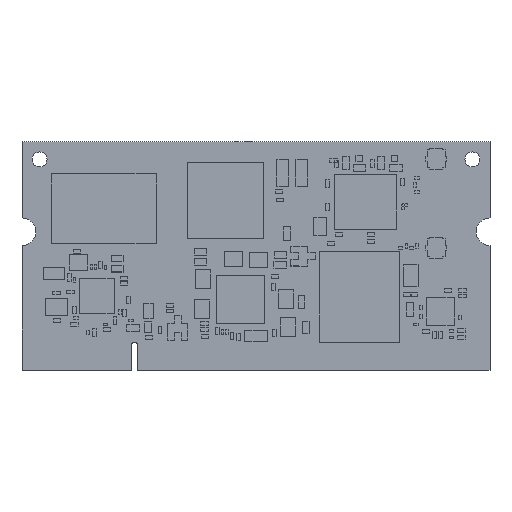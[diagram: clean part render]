
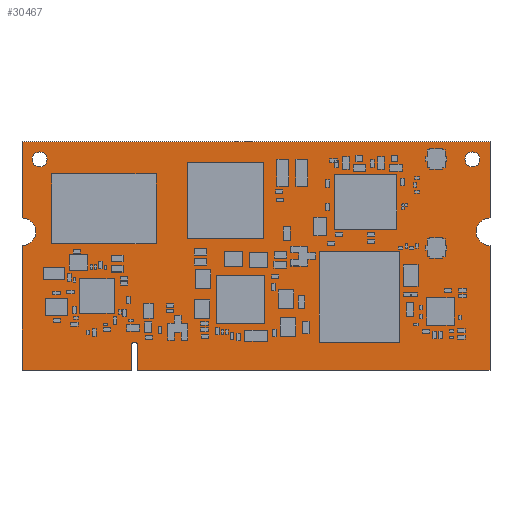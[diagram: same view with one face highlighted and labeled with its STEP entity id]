
A CAD part, top view. The second image highlights one B-rep face of the part: STEP entity #30467.
In plain terms, the highlighted planar face has unit normal (0, 0, 1).
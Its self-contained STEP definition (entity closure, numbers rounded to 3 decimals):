
#2455=FACE_BOUND('',#4444,.T.);
#2456=FACE_BOUND('',#4445,.T.);
#2457=FACE_BOUND('',#4446,.T.);
#2459=CIRCLE('',#36041,1.08);
#2461=CIRCLE('',#36044,1.08);
#2466=CIRCLE('',#36052,1.999);
#2467=CIRCLE('',#36057,0.499);
#2468=CIRCLE('',#36059,0.5);
#2469=CIRCLE('',#36064,1.999);
#2523=FACE_OUTER_BOUND('',#4443,.T.);
#4443=EDGE_LOOP('',(#20907,#20908,#20909,#20910,#20911,#20912,#20913,#20914,
#20915,#20916,#20917,#20918,#20919));
#4444=EDGE_LOOP('',(#20920,#20921,#20922,#20923));
#4445=EDGE_LOOP('',(#20924));
#4446=EDGE_LOOP('',(#20925));
#6315=LINE('',#47549,#10224);
#6319=LINE('',#47557,#10228);
#6322=LINE('',#47563,#10231);
#6325=LINE('',#47568,#10234);
#6411=LINE('',#47760,#10320);
#6414=LINE('',#47768,#10323);
#6416=LINE('',#47772,#10325);
#6418=LINE('',#47776,#10327);
#6422=LINE('',#47788,#10331);
#6424=LINE('',#47792,#10333);
#6426=LINE('',#47796,#10335);
#6429=LINE('',#47804,#10338);
#6431=LINE('',#47807,#10340);
#10224=VECTOR('',#38555,10.);
#10228=VECTOR('',#38561,10.);
#10231=VECTOR('',#38566,10.);
#10234=VECTOR('',#38571,10.);
#10320=VECTOR('',#38735,10.);
#10323=VECTOR('',#38744,10.);
#10325=VECTOR('',#38748,10.);
#10327=VECTOR('',#38752,10.);
#10331=VECTOR('',#38766,10.);
#10333=VECTOR('',#38770,10.);
#10335=VECTOR('',#38774,10.);
#10338=VECTOR('',#38783,10.);
#10340=VECTOR('',#38787,10.);
#14133=VERTEX_POINT('',#47547);
#14134=VERTEX_POINT('',#47548);
#14137=VERTEX_POINT('',#47556);
#14139=VERTEX_POINT('',#47562);
#14190=VERTEX_POINT('',#47720);
#14192=VERTEX_POINT('',#47726);
#14206=VERTEX_POINT('',#47757);
#14207=VERTEX_POINT('',#47759);
#14208=VERTEX_POINT('',#47763);
#14209=VERTEX_POINT('',#47767);
#14210=VERTEX_POINT('',#47771);
#14211=VERTEX_POINT('',#47775);
#14212=VERTEX_POINT('',#47779);
#14213=VERTEX_POINT('',#47783);
#14214=VERTEX_POINT('',#47787);
#14215=VERTEX_POINT('',#47791);
#14216=VERTEX_POINT('',#47795);
#14217=VERTEX_POINT('',#47799);
#14218=VERTEX_POINT('',#47803);
#16747=EDGE_CURVE('',#14133,#14134,#6315,.T.);
#16751=EDGE_CURVE('',#14134,#14137,#6319,.T.);
#16754=EDGE_CURVE('',#14137,#14139,#6322,.T.);
#16757=EDGE_CURVE('',#14139,#14133,#6325,.T.);
#16833=EDGE_CURVE('',#14190,#14190,#2459,.T.);
#16836=EDGE_CURVE('',#14192,#14192,#2461,.T.);
#16851=EDGE_CURVE('',#14207,#14206,#6411,.T.);
#16853=EDGE_CURVE('',#14208,#14207,#2466,.T.);
#16855=EDGE_CURVE('',#14209,#14208,#6414,.T.);
#16857=EDGE_CURVE('',#14210,#14209,#6416,.T.);
#16859=EDGE_CURVE('',#14211,#14210,#6418,.T.);
#16861=EDGE_CURVE('',#14212,#14211,#2467,.T.);
#16863=EDGE_CURVE('',#14213,#14212,#2468,.T.);
#16865=EDGE_CURVE('',#14214,#14213,#6422,.T.);
#16867=EDGE_CURVE('',#14215,#14214,#6424,.T.);
#16869=EDGE_CURVE('',#14216,#14215,#6426,.T.);
#16871=EDGE_CURVE('',#14217,#14216,#2469,.T.);
#16873=EDGE_CURVE('',#14218,#14217,#6429,.T.);
#16875=EDGE_CURVE('',#14206,#14218,#6431,.T.);
#20907=ORIENTED_EDGE('',*,*,#16875,.T.);
#20908=ORIENTED_EDGE('',*,*,#16873,.T.);
#20909=ORIENTED_EDGE('',*,*,#16871,.T.);
#20910=ORIENTED_EDGE('',*,*,#16869,.T.);
#20911=ORIENTED_EDGE('',*,*,#16867,.T.);
#20912=ORIENTED_EDGE('',*,*,#16865,.T.);
#20913=ORIENTED_EDGE('',*,*,#16863,.T.);
#20914=ORIENTED_EDGE('',*,*,#16861,.T.);
#20915=ORIENTED_EDGE('',*,*,#16859,.T.);
#20916=ORIENTED_EDGE('',*,*,#16857,.T.);
#20917=ORIENTED_EDGE('',*,*,#16855,.T.);
#20918=ORIENTED_EDGE('',*,*,#16853,.T.);
#20919=ORIENTED_EDGE('',*,*,#16851,.T.);
#20920=ORIENTED_EDGE('',*,*,#16747,.T.);
#20921=ORIENTED_EDGE('',*,*,#16751,.T.);
#20922=ORIENTED_EDGE('',*,*,#16754,.T.);
#20923=ORIENTED_EDGE('',*,*,#16757,.T.);
#20924=ORIENTED_EDGE('',*,*,#16833,.T.);
#20925=ORIENTED_EDGE('',*,*,#16836,.T.);
#28551=PLANE('',#36067);
#30467=ADVANCED_FACE('',(#2523,#2455,#2456,#2457),#28551,.T.);
#36041=AXIS2_PLACEMENT_3D('',#47722,#38704,#38705);
#36044=AXIS2_PLACEMENT_3D('',#47728,#38711,#38712);
#36052=AXIS2_PLACEMENT_3D('',#47764,#38739,#38740);
#36057=AXIS2_PLACEMENT_3D('',#47780,#38756,#38757);
#36059=AXIS2_PLACEMENT_3D('',#47784,#38761,#38762);
#36064=AXIS2_PLACEMENT_3D('',#47800,#38778,#38779);
#36067=AXIS2_PLACEMENT_3D('',#47808,#38788,#38789);
#38555=DIRECTION('',(0.,1.,0.));
#38561=DIRECTION('',(1.,0.,0.));
#38566=DIRECTION('',(0.,-1.,0.));
#38571=DIRECTION('',(-1.,0.,0.));
#38704=DIRECTION('center_axis',(0.,0.,-1.));
#38705=DIRECTION('ref_axis',(1.,0.,0.));
#38711=DIRECTION('center_axis',(0.,0.,-1.));
#38712=DIRECTION('ref_axis',(1.,0.,0.));
#38735=DIRECTION('',(0.,1.,0.));
#38739=DIRECTION('center_axis',(0.,0.,-1.));
#38740=DIRECTION('ref_axis',(-1.,0.,0.));
#38744=DIRECTION('',(0.,1.,0.));
#38748=DIRECTION('',(1.,0.,0.));
#38752=DIRECTION('',(0.,-1.,0.));
#38756=DIRECTION('center_axis',(0.,0.,-1.));
#38757=DIRECTION('ref_axis',(1.,-0.003,0.));
#38761=DIRECTION('center_axis',(0.,0.,-1.));
#38762=DIRECTION('ref_axis',(0.,1.,0.));
#38766=DIRECTION('',(0.,1.,0.));
#38770=DIRECTION('',(1.,0.,0.));
#38774=DIRECTION('',(0.,-1.,0.));
#38778=DIRECTION('center_axis',(0.,0.,-1.));
#38779=DIRECTION('ref_axis',(1.,0.,0.));
#38783=DIRECTION('',(0.,-1.,0.));
#38787=DIRECTION('',(-1.,0.,0.));
#38788=DIRECTION('center_axis',(0.,0.,1.));
#38789=DIRECTION('ref_axis',(1.,0.,0.));
#47547=CARTESIAN_POINT('',(52.353,54.354,0.504));
#47548=CARTESIAN_POINT('',(52.353,62.254,0.504));
#47549=CARTESIAN_POINT('',(52.353,56.373,0.504));
#47556=CARTESIAN_POINT('',(61.353,62.254,0.504));
#47557=CARTESIAN_POINT('',(51.176,62.254,0.504));
#47562=CARTESIAN_POINT('',(61.353,54.354,0.504));
#47563=CARTESIAN_POINT('',(61.353,52.423,0.504));
#47568=CARTESIAN_POINT('',(46.676,54.354,0.504));
#47720=CARTESIAN_POINT('',(71.18,64.448,0.504));
#47722=CARTESIAN_POINT('Origin',(72.259,64.448,0.504));
#47726=CARTESIAN_POINT('',(8.66,64.448,0.504));
#47728=CARTESIAN_POINT('Origin',(9.739,64.448,0.504));
#47757=CARTESIAN_POINT('',(74.799,66.988,0.504));
#47759=CARTESIAN_POINT('',(74.799,55.993,0.504));
#47760=CARTESIAN_POINT('',(74.799,66.988,0.504));
#47763=CARTESIAN_POINT('',(74.799,51.995,0.504));
#47764=CARTESIAN_POINT('Origin',(74.799,53.994,0.504));
#47767=CARTESIAN_POINT('',(74.799,33.994,0.504));
#47768=CARTESIAN_POINT('',(74.799,51.995,0.504));
#47771=CARTESIAN_POINT('',(23.949,33.994,0.504));
#47772=CARTESIAN_POINT('',(74.799,33.994,0.504));
#47775=CARTESIAN_POINT('',(23.949,37.494,0.504));
#47776=CARTESIAN_POINT('',(23.949,33.994,0.504));
#47779=CARTESIAN_POINT('',(23.451,37.994,0.504));
#47780=CARTESIAN_POINT('Origin',(23.45,37.495,0.504));
#47783=CARTESIAN_POINT('',(22.95,37.494,0.504));
#47784=CARTESIAN_POINT('Origin',(23.451,37.494,0.504));
#47787=CARTESIAN_POINT('',(22.95,33.994,0.504));
#47788=CARTESIAN_POINT('',(22.95,37.494,0.504));
#47791=CARTESIAN_POINT('',(7.2,33.994,0.504));
#47792=CARTESIAN_POINT('',(22.95,33.994,0.504));
#47795=CARTESIAN_POINT('',(7.2,51.995,0.504));
#47796=CARTESIAN_POINT('',(7.2,33.994,0.504));
#47799=CARTESIAN_POINT('',(7.2,55.993,0.504));
#47800=CARTESIAN_POINT('Origin',(7.2,53.994,0.504));
#47803=CARTESIAN_POINT('',(7.199,66.988,0.504));
#47804=CARTESIAN_POINT('',(7.2,55.993,0.504));
#47807=CARTESIAN_POINT('',(7.199,66.988,0.504));
#47808=CARTESIAN_POINT('Origin',(40.999,50.491,0.504));
